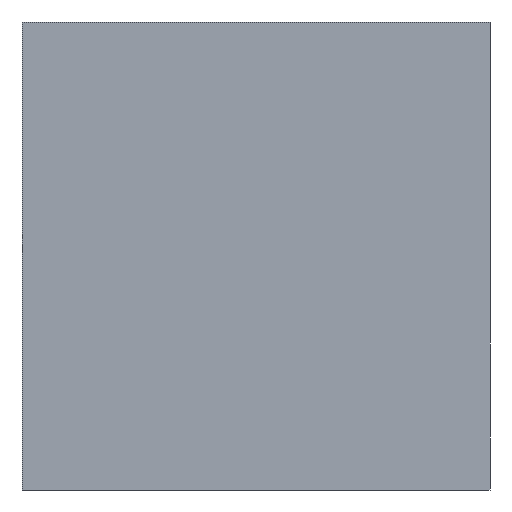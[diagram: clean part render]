
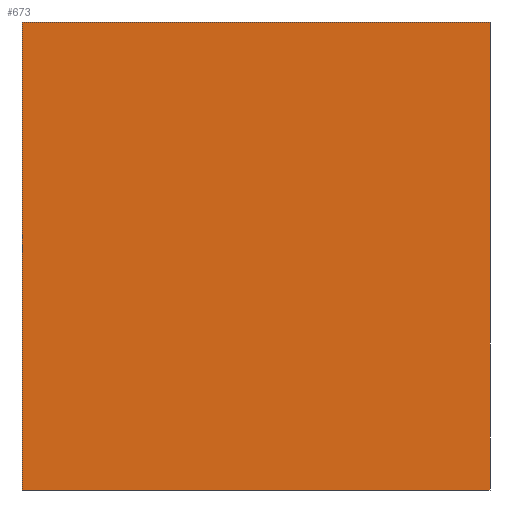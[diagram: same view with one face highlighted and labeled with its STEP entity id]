
A CAD part, front view. The second image highlights one B-rep face of the part: STEP entity #673.
In plain terms, the highlighted planar face has unit normal (0, -1, 0).
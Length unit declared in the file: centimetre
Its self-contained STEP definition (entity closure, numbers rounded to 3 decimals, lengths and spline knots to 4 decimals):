
#12 = VECTOR ( 'NONE', #605, 100. ) ;
#18 = PLANE ( 'NONE',  #632 ) ;
#21 = ORIENTED_EDGE ( 'NONE', *, *, #243, .T. ) ;
#44 = LINE ( 'NONE', #311, #268 ) ;
#53 = VERTEX_POINT ( 'NONE', #347 ) ;
#89 = LINE ( 'NONE', #484, #369 ) ;
#93 = DIRECTION ( 'NONE',  ( 0., 0., 1. ) ) ;
#95 = CARTESIAN_POINT ( 'NONE',  ( 0., 0., 0. ) ) ;
#113 = VERTEX_POINT ( 'NONE', #678 ) ;
#124 = VECTOR ( 'NONE', #565, 100. ) ;
#225 = EDGE_LOOP ( 'NONE', ( #454, #293, #677, #21 ) ) ;
#234 = DIRECTION ( 'NONE',  ( 0., 1., 0. ) ) ;
#243 = EDGE_CURVE ( 'NONE', #53, #588, #44, .T. ) ;
#268 = VECTOR ( 'NONE', #691, 100. ) ;
#286 = EDGE_CURVE ( 'NONE', #747, #113, #89, .T. ) ;
#293 = ORIENTED_EDGE ( 'NONE', *, *, #286, .F. ) ;
#309 = EDGE_CURVE ( 'NONE', #53, #747, #657, .T. ) ;
#311 = CARTESIAN_POINT ( 'NONE',  ( 0., 0., 1000. ) ) ;
#347 = CARTESIAN_POINT ( 'NONE',  ( 0., 0., 1000. ) ) ;
#369 = VECTOR ( 'NONE', #531, 100. ) ;
#454 = ORIENTED_EDGE ( 'NONE', *, *, #521, .T. ) ;
#484 = CARTESIAN_POINT ( 'NONE',  ( 1000., 0., 1000. ) ) ;
#521 = EDGE_CURVE ( 'NONE', #588, #113, #694, .T. ) ;
#531 = DIRECTION ( 'NONE',  ( 0., 0., -1. ) ) ;
#559 = FACE_OUTER_BOUND ( 'NONE', #225, .T. ) ;
#565 = DIRECTION ( 'NONE',  ( 1., 0., 0. ) ) ;
#588 = VERTEX_POINT ( 'NONE', #803 ) ;
#605 = DIRECTION ( 'NONE',  ( 1., 0., 0. ) ) ;
#632 = AXIS2_PLACEMENT_3D ( 'NONE', #798, #234, #93 ) ;
#637 = CARTESIAN_POINT ( 'NONE',  ( 1000., 0., 1000. ) ) ;
#657 = LINE ( 'NONE', #674, #12 ) ;
#673 = ADVANCED_FACE ( 'NONE', ( #559 ), #18, .F. ) ;
#674 = CARTESIAN_POINT ( 'NONE',  ( 0., 0., 1000. ) ) ;
#677 = ORIENTED_EDGE ( 'NONE', *, *, #309, .F. ) ;
#678 = CARTESIAN_POINT ( 'NONE',  ( 1000., 0., 0. ) ) ;
#691 = DIRECTION ( 'NONE',  ( 0., 0., -1. ) ) ;
#694 = LINE ( 'NONE', #95, #124 ) ;
#747 = VERTEX_POINT ( 'NONE', #637 ) ;
#798 = CARTESIAN_POINT ( 'NONE',  ( 0., 0., 1000. ) ) ;
#803 = CARTESIAN_POINT ( 'NONE',  ( 0., 0., 0. ) ) ;
